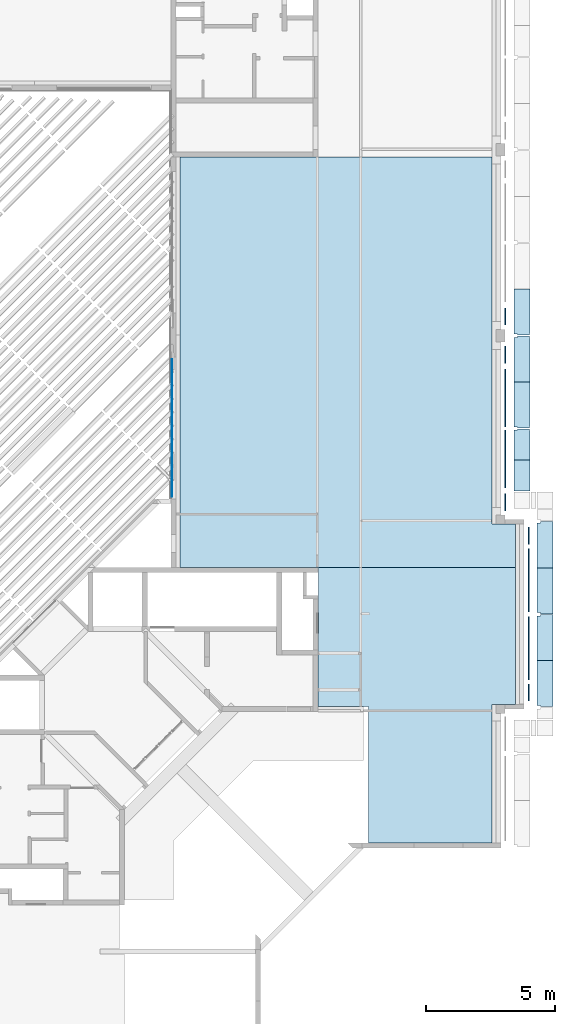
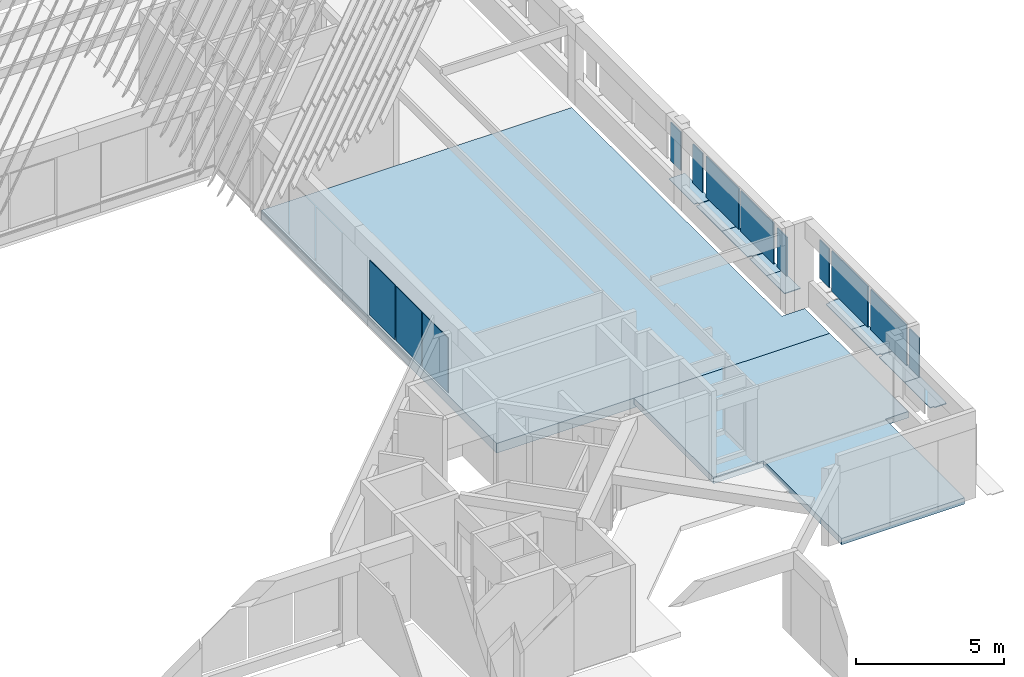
# One storey, part 19 of 37: 12 plates, 11 slabs.
"""IFC4X3_ADD2 building model written with IfcOpenShell, lengths in millimetres."""

from ifc_helpers import new_model, si_unit, direction, frame, frame_2d, origin_with_axes, origin_2d_with_axis, place, context, subcontext, project, spatial, polyline, rectangle, outline, extrude, source, transform, mapped, material, type_object, element, save


model = new_model("IFC4X3_ADD2")

# Units and contexts
model_context = context("Model", 3, precision=1e-05, world=origin_with_axes(), true_north=direction((0.0, 1.0)))
body_context = subcontext(model_context, "Body", "Model", "MODEL_VIEW")
ifc_project = project(units=[si_unit("LENGTHUNIT", "METRE", prefix="MILLI"), si_unit("AREAUNIT", "SQUARE_METRE"), si_unit("VOLUMEUNIT", "CUBIC_METRE"), si_unit("PLANEANGLEUNIT", "RADIAN"), si_unit("TIMEUNIT", "SECOND"), si_unit("MASSUNIT", "GRAM")], contexts=[model_context])

# Site, building, storey
site_placement = place(None, origin_with_axes())
site = spatial("IfcSite", under=ifc_project, at=site_placement, Name="Site", CompositionType="ELEMENT")
building_placement = place(site_placement, origin_with_axes())
building = spatial("IfcBuilding", under=site, at=building_placement, Name="IFC Building Story")
storey_placement = place(building_placement, frame((0.0, 0.0, 3600.0), z_axis=(0.0, 0.0, 1.0), x_axis=(1.0, 0.0, 0.0)))
storey = spatial("IfcBuildingStorey", under=building, at=storey_placement, Name="010", Elevation=3600.0)

# Slab
ifc_material_1 = material(Name="BB_Beton_Bestaand")
slab_type_1 = type_object("IfcSlabType", Name="BB_Beton_Bestaand 400", PredefinedType="FLOOR", material=ifc_material_1)
slab_1_placement = place(storey_placement, frame((-12355.00237716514, 36000.0, -600.0), z_axis=(0.0, 0.0, 1.0), x_axis=(0.0, -1.0, 0.0)))
element("IfcSlab", 1, at=slab_1_placement, inside=storey, type_object=slab_type_1, Name="Floor:BB_XX_Vloer welfsels, 400 mm", ObjectType="Floor:BB_XX_Vloer welfsels, 400 mm", PredefinedType="FLOOR", context=body_context, shape_type="SweptSolid", body=[
    extrude(outline(polyline([(5861.666666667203, 4636.66745905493), (5861.66666666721, -8373.33491811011), (-10038.3333333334, -8373.33491811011), (-10038.3333333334, 3736.66745905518), (4176.666666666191, 3736.66745905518), (4176.666666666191, 4636.667459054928), (5861.666666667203, 4636.66745905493)])), frame((10038.3333333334, 8373.33491811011, 0.0), z_axis=(0.0, 0.0, 1.0), x_axis=(1.0, 0.0, 0.0)), (0.0, 0.0, 1.0), 400.0),
])

# Plates
ifc_material_2 = material(Name="BB_Glas")
shared_shape_1 = source(origin_with_axes(), body_context, "Body", "SweptSolid", [
    extrude(rectangle(XDim=1602.000000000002, YDim=652.0000000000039, at=frame_2d((0.0, 0.0), x_axis=(0.0, 1.0))), frame((0.0, 0.0, -44.0), z_axis=(0.0, 0.0, 1.0), x_axis=(1.0, 0.0, 0.0)), (0.0, 0.0, 1.0), 44.0),
])
for number, where, z_axis, x_axis in (
    (2, (287.500000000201, 28336.0, 1765.0), (1.0, 0.0, 0.0), (0.0, -1.0, 0.0)),
    (3, (287.500000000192, 22624.0, 1765.0), (1.0, 0.0, 0.0), (0.0, -1.0, 0.0)),
    (4, (1187.50000000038, 21316.0, 1765.0), (1.0, 0.0, 0.0), (0.0, -1.0, 0.0)),
    (5, (1187.50000000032, 15244.0, 1765.0), (1.0, 0.0, 0.0), (0.0, -1.0, 0.0)),
    (6, (287.500000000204, 29824.0, 1765.0), (1.0, 0.0, 0.0), (0.0, -1.0, 0.0)),
):
    element("IfcPlate", number, at=place(storey_placement, frame(where, z_axis=z_axis, x_axis=x_axis)), inside=storey, material=ifc_material_2, Name="BB_07.06_Buitenbeglazing, rechthoekig_GMO:07.06.72#01_Drievoudige beglazing, 44 mm, A/A*/A", ObjectType="BB_07.06_Buitenbeglazing, rechthoekig_GMO:07.06.72#01_Drievoudige beglazing, 44 mm, A/A*/A", PredefinedType="USERDEFINED", context=body_context, shape_type="MappedRepresentation", body=[
        mapped(shared_shape_1, transform((0.0, 0.0, 0.0))),
    ])
shared_shape_2 = source(origin_with_axes(), body_context, "Body", "SweptSolid", [
    extrude(rectangle(XDim=2432.0, YDim=1680.000000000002, at=origin_2d_with_axis()), frame((0.0, 0.0, -44.0), z_axis=(0.0, 0.0, 1.0), x_axis=(1.0, 0.0, 0.0)), (0.0, 0.0, 1.0), 44.0),
])
for number, where, z_axis, x_axis in (
    (7, (1187.50000000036, 19596.0, 1765.0), (1.0, 0.0, 0.0), (0.0, -1.0, 0.0)),
    (8, (1187.50000000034, 16964.0, 1765.0), (1.0, 0.0, 0.0), (0.0, -1.0, 0.0)),
):
    element("IfcPlate", number, at=place(storey_placement, frame(where, z_axis=z_axis, x_axis=x_axis)), inside=storey, material=ifc_material_2, Name="BB_07.06_Buitenbeglazing, rechthoekig_GMO:07.06.72#01_Drievoudige beglazing, 44 mm, A/A*/A", ObjectType="BB_07.06_Buitenbeglazing, rechthoekig_GMO:07.06.72#01_Drievoudige beglazing, 44 mm, A/A*/A", PredefinedType="USERDEFINED", context=body_context, shape_type="MappedRepresentation", body=[
        mapped(shared_shape_2, transform((0.0, 0.0, 0.0))),
    ])
shared_shape_3 = source(origin_with_axes(), body_context, "Body", "SweptSolid", [
    extrude(rectangle(XDim=2222.0, YDim=1680.000000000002, at=origin_2d_with_axis()), frame((0.0, 0.0, -44.0), z_axis=(0.0, 0.0, 1.0), x_axis=(1.0, 0.0, 0.0)), (0.0, 0.0, 1.0), 44.0),
])
for number, where, z_axis, x_axis in (
    (9, (287.500000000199, 26661.0, 1765.0), (1.0, 0.0, 0.0), (0.0, -1.0, 0.0)),
    (10, (287.500000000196, 24299.0, 1765.0), (1.0, 0.0, 0.0), (0.0, -1.0, 0.0)),
):
    element("IfcPlate", number, at=place(storey_placement, frame(where, z_axis=z_axis, x_axis=x_axis)), inside=storey, material=ifc_material_2, Name="BB_07.06_Buitenbeglazing, rechthoekig_GMO:07.06.72#01_Drievoudige beglazing, 44 mm, A/A*/A", ObjectType="BB_07.06_Buitenbeglazing, rechthoekig_GMO:07.06.72#01_Drievoudige beglazing, 44 mm, A/A*/A", PredefinedType="USERDEFINED", context=body_context, shape_type="MappedRepresentation", body=[
        mapped(shared_shape_3, transform((0.0, 0.0, 0.0))),
    ])
shared_shape_4 = source(origin_with_axes(), body_context, "Body", "SweptSolid", [
    extrude(rectangle(XDim=2256.0, YDim=1736.000000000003, at=frame_2d((0.0, 0.0), x_axis=(0.0, 1.0))), frame((0.0, 0.0, -17.0), z_axis=(0.0, 0.0, 1.0), x_axis=(1.0, 0.0, 0.0)), (0.0, 0.0, 1.0), 17.0),
])
for number, where, z_axis, x_axis in (
    (11, (-12671.5040658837, 25500.0, 1475.0), (-1.0, 0.0, 0.0), (0.0, 1.0, 0.0)),
    (12, (-12671.5040658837, 23700.0, 1475.0), (-1.0, 0.0, 0.0), (0.0, 1.0, 0.0)),
    (13, (-12671.5040658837, 27300.0, 1475.0), (-1.0, 0.0, 0.0), (0.0, 1.0, 0.0)),
):
    element("IfcPlate", number, at=place(storey_placement, frame(where, z_axis=z_axis, x_axis=x_axis)), inside=storey, material=ifc_material_2, Name="BB_10.10_Binnenbeglazing, rechthoekig_GMO:10.10.41#02_Enkelvoudige beglazing, 2B2, EI30, 40dB", ObjectType="BB_10.10_Binnenbeglazing, rechthoekig_GMO:10.10.41#02_Enkelvoudige beglazing, 2B2, EI30, 40dB", PredefinedType="USERDEFINED", context=body_context, shape_type="MappedRepresentation", body=[
        mapped(shared_shape_4, transform((0.0, 0.0, 0.0))),
    ])

# Slabs
slab_type_2 = type_object("IfcSlabType", Name="BB_Beton_Bestaand 260", PredefinedType="FLOOR", material=ifc_material_1)
slab_2_placement = place(storey_placement, frame((-6999.999999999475, 20099.9999999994, -460.0), z_axis=(0.0, 0.0, 1.0), x_axis=(0.0, -1.0, 0.0)))
element("IfcSlab", 14, at=slab_2_placement, inside=storey, type_object=slab_type_2, Name="Floor:BB_XX_Vloer welfsels, 260 mm", ObjectType="Floor:BB_XX_Vloer welfsels, 260 mm", PredefinedType="FLOOR", context=body_context, shape_type="SweptSolid", body=[
    extrude(outline(polyline([(5722.999999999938, -1324.000000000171), (437.9999999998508, -1324.000000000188), (437.9999999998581, -3273.999999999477), (-1562.00000000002, -3273.99999999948), (-1562.00000000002, -3264.00000000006), (-4961.999999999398, -3264.000000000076), (-4961.999999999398, 4380.999999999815), (362.9999999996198, 4380.999999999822), (362.9999999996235, 3480.999999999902), (5722.99999999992, 3480.99999999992), (5722.999999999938, -1324.000000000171)])), frame((4961.999999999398, 3273.999999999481, 0.0), z_axis=(0.0, 0.0, 1.0), x_axis=(1.0, 0.0, 0.0)), (0.0, 0.0, 1.0), 260.0),
])
ifc_material_3 = material(Name="Steel, Galvanized - looprooster")
slab_type_3 = type_object("IfcSlabType", Name="Steel, Galvanized - looprooster 30", PredefinedType="FLOOR", material=ifc_material_3)
slab_3_placement = place(storey_placement, frame((589.998741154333, 29065.49996376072, -350.0), z_axis=(0.0, 0.0, 1.0), x_axis=(0.0, -1.0, 0.0)))
element("IfcSlab", 15, at=slab_3_placement, inside=storey, type_object=slab_type_3, Name="Floor:GVH - Looprooster 30 mm", ObjectType="Floor:GVH - Looprooster 30 mm", PredefinedType="FLOOR", context=body_context, shape_type="SweptSolid", body=[
    extrude(outline(polyline([(-394.1244818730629, 282.4992180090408), (1303.873518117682, 282.4992180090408), (1303.873518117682, -347.5004386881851), (-428.6245543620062, -347.5004386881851), (-428.6245543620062, -202.4983406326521), (-481.1244818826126, -202.4983406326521), (-481.1244818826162, 267.4995613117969), (-394.1244818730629, 267.4995613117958), (-394.1244818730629, 282.4992180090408)])), frame((481.1244818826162, 347.5004386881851, 0.0), z_axis=(0.0, 0.0, 1.0), x_axis=(1.0, 0.0, 0.0)), (0.0, 0.0, 1.0), 30.0),
])
slab_4_placement = place(storey_placement, frame((589.998741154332, 25464.99996376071, -350.0), z_axis=(0.0, 0.0, 1.0), x_axis=(0.0, -1.0, 0.0)))
element("IfcSlab", 16, at=slab_4_placement, inside=storey, type_object=slab_type_3, Name="Floor:GVH - Looprooster 30 mm", ObjectType="Floor:GVH - Looprooster 30 mm", PredefinedType="FLOOR", context=body_context, shape_type="SweptSolid", body=[
    extrude(outline(polyline([(-249.6244909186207, 282.4992180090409), (870.8735090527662, 282.4992180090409), (870.8735090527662, -347.500438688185), (-284.6245271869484, -347.500438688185), (-284.624527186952, -202.498340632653), (-336.6244909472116, -202.498340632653), (-336.6244909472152, 267.4995613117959), (-249.6244909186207, 267.499561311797), (-249.6244909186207, 282.4992180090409)])), frame((336.6244909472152, 347.500438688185, 0.0), z_axis=(0.0, 0.0, 1.0), x_axis=(1.0, 0.0, 0.0)), (0.0, 0.0, 1.0), 30.0),
])
slab_5_placement = place(storey_placement, frame((589.998733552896, 30879.49796376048, -350.0), z_axis=(0.0, 0.0, 1.0), x_axis=(0.0, -1.0, 0.0)))
element("IfcSlab", 17, at=slab_5_placement, inside=storey, type_object=slab_type_3, Name="Floor:GVH - Looprooster 30 mm", ObjectType="Floor:GVH - Looprooster 30 mm", PredefinedType="FLOOR", context=body_context, shape_type="SweptSolid", body=[
    extrude(outline(polyline([(480.8724909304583, -202.4983406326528), (428.8725271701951, -202.4983406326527), (428.8725271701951, -347.5004386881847), (-1303.621509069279, -347.5004386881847), (-1303.621509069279, 282.4992180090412), (393.8764909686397, 282.4992180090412), (393.8764909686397, 267.4995613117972), (480.8724909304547, 267.4995613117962), (480.8724909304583, -202.4983406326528)])), frame((1303.621509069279, 347.5004386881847, 0.0), z_axis=(0.0, 0.0, 1.0), x_axis=(1.0, 0.0, 0.0)), (0.0, 0.0, 1.0), 30.0),
])
slab_6_placement = place(storey_placement, frame((589.998741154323, 27279.49796376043, -350.0), z_axis=(0.0, 0.0, 1.0), x_axis=(0.0, -1.0, 0.0)))
element("IfcSlab", 18, at=slab_6_placement, inside=storey, type_object=slab_type_3, Name="Floor:GVH - Looprooster 30 mm", ObjectType="Floor:GVH - Looprooster 30 mm", PredefinedType="FLOOR", context=body_context, shape_type="SweptSolid", body=[
    extrude(outline(polyline([(480.9994999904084, -202.498340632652), (428.9994999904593, -202.498340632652), (428.9994999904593, -347.500438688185), (-1303.998500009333, -347.5004386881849), (-1303.998500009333, 282.4992180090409), (393.9995000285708, 282.4992180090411), (393.9995000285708, 267.499561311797), (480.9994999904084, 267.4995613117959), (480.9994999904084, -202.498340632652)])), frame((1303.998500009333, 347.5004386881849, 0.0), z_axis=(0.0, 0.0, 1.0), x_axis=(1.0, 0.0, 0.0)), (0.0, 0.0, 1.0), 30.0),
])
slab_7_placement = place(storey_placement, frame((589.998397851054, 24255.9978207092, -350.0), z_axis=(0.0, 0.0, 1.0), x_axis=(0.0, -1.0, 0.0)))
element("IfcSlab", 19, at=slab_7_placement, inside=storey, type_object=slab_type_3, Name="Floor:GVH - Looprooster 30 mm", ObjectType="Floor:GVH - Looprooster 30 mm", PredefinedType="FLOOR", context=body_context, shape_type="SweptSolid", body=[
    extrude(rectangle(XDim=1207.998000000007, YDim=629.9996566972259, at=frame_2d((0.0, 0.0), x_axis=(-1.0, 0.0))), frame((603.9990000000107, 314.9998283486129, 0.0), z_axis=(0.0, 0.0, 1.0), x_axis=(1.0, 0.0, 0.0)), (0.0, 0.0, 1.0), 30.0),
])
slab_8_placement = place(storey_placement, frame((1489.998733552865, 21865.50000000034, -350.0), z_axis=(0.0, 0.0, 1.0), x_axis=(0.0, -1.0, 0.0)))
element("IfcSlab", 20, at=slab_8_placement, inside=storey, type_object=slab_type_3, Name="Floor:GVH - Looprooster 30 mm", ObjectType="Floor:GVH - Looprooster 30 mm", PredefinedType="FLOOR", context=body_context, shape_type="SweptSolid", body=[
    extrude(outline(polyline([(-393.9994637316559, 282.4992180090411), (1303.99849999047, 282.4992180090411), (1303.99849999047, -347.5004386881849), (-428.9995362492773, -347.5004386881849), (-428.9995362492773, -202.4983406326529), (-480.9995000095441, -202.4983406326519), (-480.9995000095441, 267.4995613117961), (-393.9994637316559, 267.4995613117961), (-393.9994637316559, 282.4992180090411)])), frame((480.9995000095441, 347.5004386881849, 0.0), z_axis=(0.0, 0.0, 1.0), x_axis=(1.0, 0.0, 0.0)), (0.0, 0.0, 1.0), 30.0),
])
slab_9_placement = place(storey_placement, frame((1489.998725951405, 18265.00125885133, -350.0), z_axis=(0.0, 0.0, 1.0), x_axis=(0.0, -1.0, 0.0)))
element("IfcSlab", 21, at=slab_9_placement, inside=storey, type_object=slab_type_3, Name="Floor:GVH - Looprooster 30 mm", ObjectType="Floor:GVH - Looprooster 30 mm", PredefinedType="FLOOR", context=body_context, shape_type="SweptSolid", body=[
    extrude(outline(polyline([(-394.4991918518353, 282.4992180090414), (1303.498808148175, 282.4992180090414), (1303.498808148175, -347.5004386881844), (-428.499129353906, -347.5004386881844), (-428.499129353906, -202.4983406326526), (-480.5004869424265, -202.4983406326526), (-480.5004869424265, 267.4995613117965), (-394.4991918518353, 267.4995613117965), (-394.4991918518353, 282.4992180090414)])), frame((480.5004869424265, 347.5004386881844, 0.0), z_axis=(0.0, 0.0, 1.0), x_axis=(1.0, 0.0, 0.0)), (0.0, 0.0, 1.0), 30.0),
])
slab_10_placement = place(storey_placement, frame((1489.998733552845, 20079.99796376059, -350.0), z_axis=(0.0, 0.0, 1.0), x_axis=(0.0, -1.0, 0.0)))
element("IfcSlab", 22, at=slab_10_placement, inside=storey, type_object=slab_type_3, Name="Floor:GVH - Looprooster 30 mm", ObjectType="Floor:GVH - Looprooster 30 mm", PredefinedType="FLOOR", context=body_context, shape_type="SweptSolid", body=[
    extrude(outline(polyline([(480.999500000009, -202.4983406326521), (428.999499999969, -202.4983406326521), (428.999499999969, -347.5004386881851), (-1303.998499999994, -347.5004386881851), (-1303.998499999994, 282.4992180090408), (393.9994999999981, 282.4992180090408), (393.9994999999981, 267.4995613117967), (480.9995000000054, 267.4995613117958), (480.999500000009, -202.4983406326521)])), frame((1303.998499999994, 347.5004386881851, 0.0), z_axis=(0.0, 0.0, 1.0), x_axis=(1.0, 0.0, 0.0)), (0.0, 0.0, 1.0), 30.0),
])
slab_11_placement = place(storey_placement, frame((1489.998725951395, 16480.50196376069, -350.0), z_axis=(0.0, 0.0, 1.0), x_axis=(0.0, -1.0, 0.0)))
element("IfcSlab", 23, at=slab_11_placement, inside=storey, type_object=slab_type_3, Name="Floor:GVH - Looprooster 30 mm", ObjectType="Floor:GVH - Looprooster 30 mm", PredefinedType="FLOOR", context=body_context, shape_type="SweptSolid", body=[
    extrude(outline(polyline([(481.2505000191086, -202.4983406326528), (429.2504999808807, -202.4983406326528), (429.2504999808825, -347.5004386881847), (-1304.251500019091, -347.5004386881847), (-1304.251500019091, 282.4992180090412), (393.7505000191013, 282.4992180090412), (393.7505000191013, 267.4995613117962), (481.2505000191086, 267.4995613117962), (481.2505000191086, -202.4983406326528)])), frame((1304.251500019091, 347.5004386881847, 0.0), z_axis=(0.0, 0.0, 1.0), x_axis=(1.0, 0.0, 0.0)), (0.0, 0.0, 1.0), 30.0),
])

save(model, "model.ifc")
